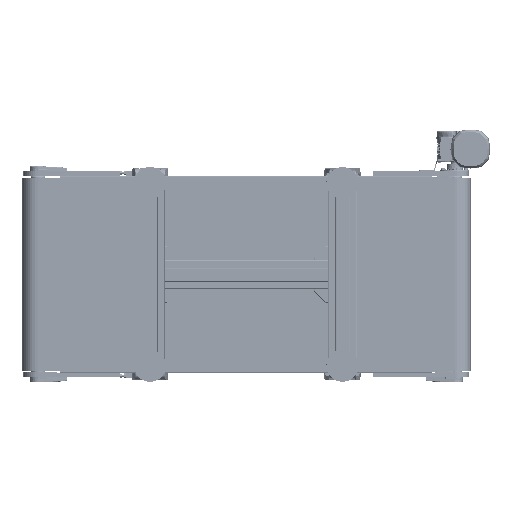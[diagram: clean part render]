
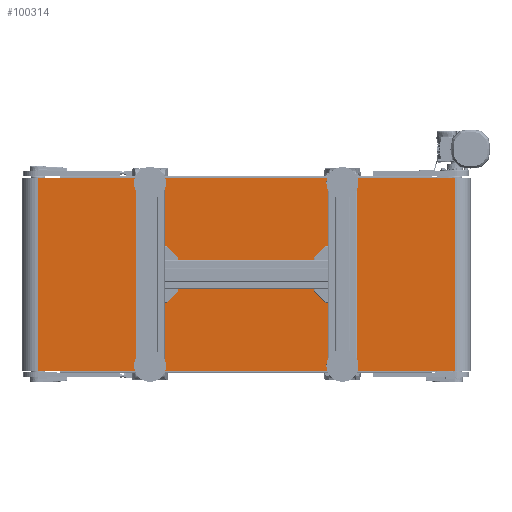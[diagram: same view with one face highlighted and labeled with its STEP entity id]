
A CAD part, front view. The second image highlights one B-rep face of the part: STEP entity #100314.
In plain terms, the highlighted planar face has unit normal (0, -1, 0).
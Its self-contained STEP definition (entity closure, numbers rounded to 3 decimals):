
#5095 = EDGE_CURVE ( 'NONE', #56711, #168632, #246112, .T. ) ;
#11192 = DIRECTION ( 'NONE',  ( 0., 0., 1. ) ) ;
#26305 = CARTESIAN_POINT ( 'NONE',  ( -650., -49.5, 300. ) ) ;
#50089 = DIRECTION ( 'NONE',  ( 0., 0., -1. ) ) ;
#56711 = VERTEX_POINT ( 'NONE', #111670 ) ;
#82799 = VERTEX_POINT ( 'NONE', #179702 ) ;
#92480 = CARTESIAN_POINT ( 'NONE',  ( 650., -49.5, -300. ) ) ;
#100314 = ADVANCED_FACE ( 'NONE', ( #253324 ), #254746, .F. ) ;
#106781 = ORIENTED_EDGE ( 'NONE', *, *, #230728, .F. ) ;
#111670 = CARTESIAN_POINT ( 'NONE',  ( -650., -49.5, -300. ) ) ;
#115275 = DIRECTION ( 'NONE',  ( 1., 0., 0. ) ) ;
#115784 = CARTESIAN_POINT ( 'NONE',  ( -650., -49.5, 300. ) ) ;
#134183 = DIRECTION ( 'NONE',  ( 0., 0., -1. ) ) ;
#149428 = AXIS2_PLACEMENT_3D ( 'NONE', #256193, #279552, #11192 ) ;
#160355 = LINE ( 'NONE', #202739, #169788 ) ;
#161450 = CARTESIAN_POINT ( 'NONE',  ( -650., -49.5, -300. ) ) ;
#168632 = VERTEX_POINT ( 'NONE', #92480 ) ;
#169788 = VECTOR ( 'NONE', #134183, 1000. ) ;
#179702 = CARTESIAN_POINT ( 'NONE',  ( -650., -49.5, 300. ) ) ;
#180507 = DIRECTION ( 'NONE',  ( 1., 0., 0. ) ) ;
#200656 = VECTOR ( 'NONE', #180507, 1000. ) ;
#202739 = CARTESIAN_POINT ( 'NONE',  ( 650., -49.5, 300. ) ) ;
#226242 = EDGE_LOOP ( 'NONE', ( #268600, #248768, #106781, #279393 ) ) ;
#230714 = VERTEX_POINT ( 'NONE', #245132 ) ;
#230728 = EDGE_CURVE ( 'NONE', #82799, #230714, #268519, .T. ) ;
#243166 = EDGE_CURVE ( 'NONE', #82799, #56711, #251380, .T. ) ;
#245132 = CARTESIAN_POINT ( 'NONE',  ( 650., -49.5, 300. ) ) ;
#246112 = LINE ( 'NONE', #161450, #200656 ) ;
#248768 = ORIENTED_EDGE ( 'NONE', *, *, #258572, .F. ) ;
#251380 = LINE ( 'NONE', #115784, #280918 ) ;
#253324 = FACE_OUTER_BOUND ( 'NONE', #226242, .T. ) ;
#254746 = PLANE ( 'NONE',  #149428 ) ;
#256193 = CARTESIAN_POINT ( 'NONE',  ( -650., -49.5, 300. ) ) ;
#258572 = EDGE_CURVE ( 'NONE', #230714, #168632, #160355, .T. ) ;
#268519 = LINE ( 'NONE', #26305, #276104 ) ;
#268600 = ORIENTED_EDGE ( 'NONE', *, *, #5095, .T. ) ;
#276104 = VECTOR ( 'NONE', #115275, 1000. ) ;
#279393 = ORIENTED_EDGE ( 'NONE', *, *, #243166, .T. ) ;
#279552 = DIRECTION ( 'NONE',  ( 0., 1., 0. ) ) ;
#280918 = VECTOR ( 'NONE', #50089, 1000. ) ;
